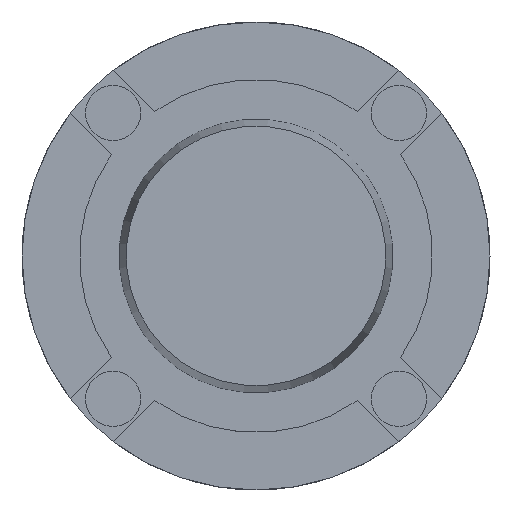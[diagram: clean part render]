
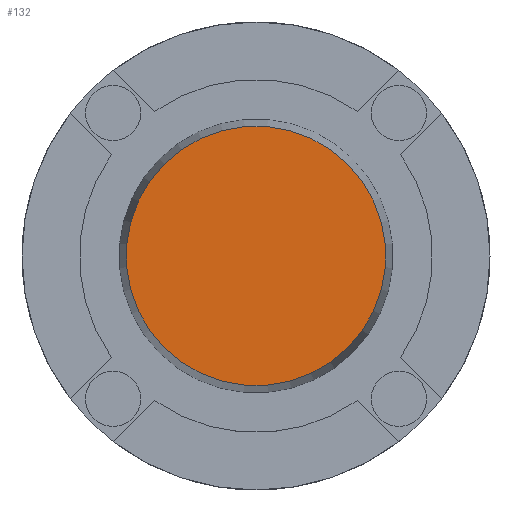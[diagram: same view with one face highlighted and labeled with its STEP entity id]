
A CAD part, top view. The second image highlights one B-rep face of the part: STEP entity #132.
In plain terms, the highlighted planar face has unit normal (0, 0, 1) as drawn and (1, 0, 0) by its records, which use the part's own axes.
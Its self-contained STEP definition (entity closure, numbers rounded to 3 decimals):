
#132=ADVANCED_FACE('',(#167),#684,.T.);
#167=FACE_OUTER_BOUND('',#207,.T.);
#207=EDGE_LOOP('',(#308,#309));
#308=ORIENTED_EDGE('',*,*,#449,.F.);
#309=ORIENTED_EDGE('',*,*,#452,.F.);
#449=EDGE_CURVE('',#645,#647,#500,.T.);
#452=EDGE_CURVE('',#647,#645,#502,.T.);
#500=TRIMMED_CURVE($,#540,(#1302),(#1303),.T.,.CARTESIAN.);
#502=TRIMMED_CURVE($,#542,(#1310),(#1311),.T.,.CARTESIAN.);
#540=CIRCLE('',#925,30.5);
#542=CIRCLE('',#927,30.5);
#645=VERTEX_POINT('',#1164);
#647=VERTEX_POINT('',#1166);
#684=PLANE('',#885);
#885=AXIS2_PLACEMENT_3D('',#1093,#964,$);
#925=AXIS2_PLACEMENT_3D($,#1301,#1022,#1023);
#927=AXIS2_PLACEMENT_3D($,#1309,#1026,#1027);
#964=DIRECTION('',(1.,0.,0.));
#1022=DIRECTION('',(-1.,0.,0.));
#1023=DIRECTION('',(0.,0.,1.));
#1026=DIRECTION('',(-1.,0.,0.));
#1027=DIRECTION('',(0.,0.,-1.));
#1093=CARTESIAN_POINT('',(15.5,-36.66,-36.66));
#1164=CARTESIAN_POINT('',(15.5,0.,30.5));
#1166=CARTESIAN_POINT('',(15.5,0.,-30.5));
#1301=CARTESIAN_POINT('',(15.5,0.,0.));
#1302=CARTESIAN_POINT('',(15.5,0.,30.5));
#1303=CARTESIAN_POINT('',(15.5,0.,-30.5));
#1309=CARTESIAN_POINT('',(15.5,0.,0.));
#1310=CARTESIAN_POINT('',(15.5,0.,-30.5));
#1311=CARTESIAN_POINT('',(15.5,0.,30.5));
